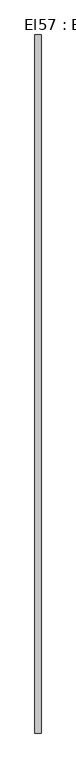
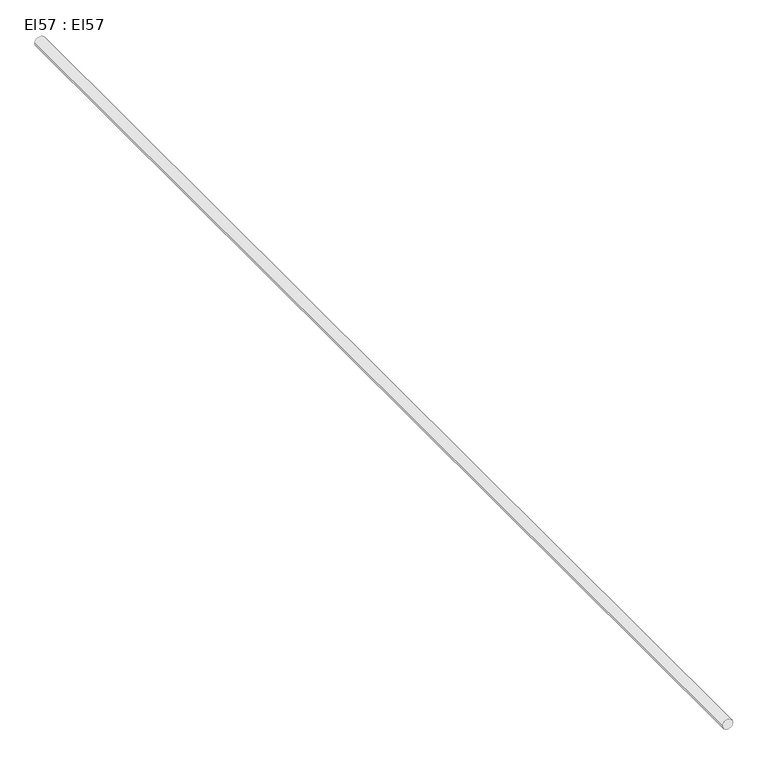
"""IFC4 building model written with IfcOpenShell, lengths in millimetres: cable carrier segment geometry, El57 : El57."""

from ifc_helpers import new_model, si_unit, point, frame, frame_2d, origin, place, context, project, spatial, circle_curve, trimmed, segment, composite_curve, outline, extrude, source, transform, mapped, element, save


def el57_el57_64b5103b(model_context):
    return source(origin(), model_context, "Body", "SweptSolid", [
        extrude(outline(composite_curve([segment(trimmed(circle_curve(frame_2d((2950.0, 15401.2)), 9.5), [point((2950.0, 15391.7))], [point((2950.0, 15410.7))], False, "CARTESIAN"), True, "CONTINUOUS"), segment(trimmed(circle_curve(frame_2d((2950.0, 15401.2)), 9.5), [point((2950.0, 15410.7))], [point((2950.0, 15391.7))], False, "CARTESIAN"), True, "CONTINUOUS")], self_intersect=False)), frame((0.0, 16550.7, 0.0), z_axis=(0.0, 1.0, 0.0), x_axis=(0.0, 0.0, 1.0)), (0.0, 0.0, 1.0), 2155.0),
    ])


if __name__ == "__main__":
    model = new_model("IFC4")
    model_context = context("Model", 3, world=origin())
    ifc_project = project(units=[si_unit("LENGTHUNIT", "METRE", prefix="MILLI")], contexts=[model_context])
    site = spatial("IfcSite", under=ifc_project)
    building = spatial("IfcBuilding", under=site)
    placement = place(None, origin())
    el57_el57_shape = el57_el57_64b5103b(model_context)
    element("IfcCableCarrierSegment", 1, ObjectType="El57 : El57", at=placement, inside=building, context=model_context, shape_type="MappedRepresentation", body=[
        mapped(el57_el57_shape, transform((0.0, 0.0, 0.0), x_axis=(1.0, 0.0, 0.0), y_axis=(0.0, 1.0, 0.0), z_axis=(0.0, 0.0, 1.0))),
    ])
    save(model, "model.ifc")
